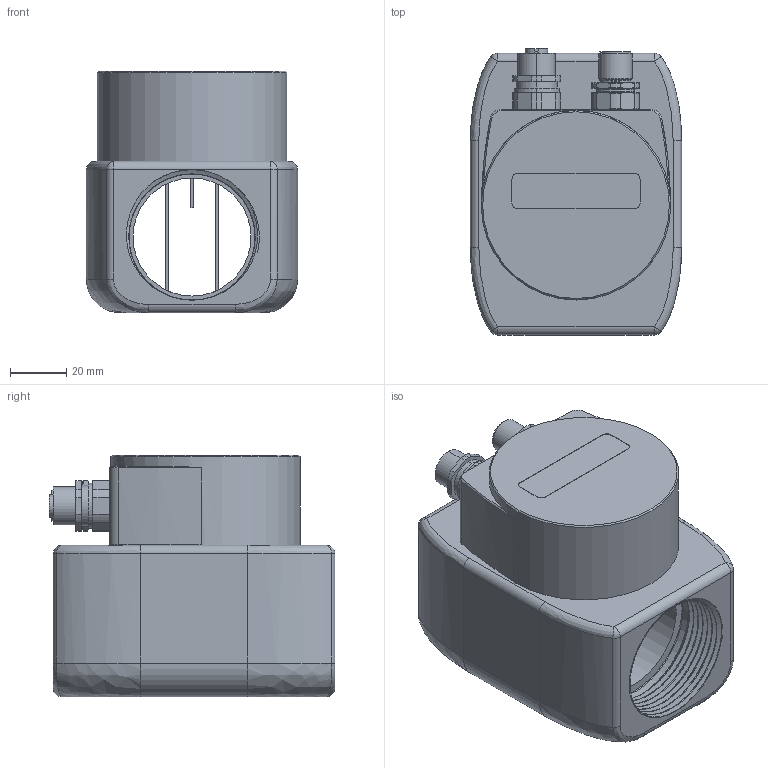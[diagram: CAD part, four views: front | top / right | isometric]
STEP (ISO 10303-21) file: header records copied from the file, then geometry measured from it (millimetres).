
FILE_DESCRIPTION(/* description */ (''),/* implementation_level */ '2;1');
FILE_NAME(/* name */ '549600_02_1-BGR_Inline_neu_1.5Zoll.stp',/* time_stamp */ '2018-11-28T15:39:25+01:00',/* author */ (''),/* organization */ (''),/* preprocessor_version */ 'ST-DEVELOPER v16',/* originating_system */ 'SIEMENS PLM Software NX 11.0',/* authorisation */ '');
FILE_SCHEMA (('AP203_CONFIGURATION_CONTROLLED_3D_DESIGN_OF_MECHANICAL_PARTS_AND_ASSEMBLIES_MIM_LF { 1 0 10303 403 2 1 2}'));
Length unit declared in the file: millimetre
Products named in the file (1): kien30CCF608weqp
Bounding box: 75 x 101.5 x 85.8 mm (x, y, z)
Volume: 360352.2 mm3; surface area: 57400 mm2
Topology: 1 solids, 1 shells, 303 faces, 745 edges, 465 vertices
Faces by surface type: plane 105, cylinder 89, bspline 36, cone 36, revolution 23, extrusion 6, torus 4, sphere 4
Full cylindrical faces by diameter (mm): 1 x1, 41.9 x1, 48.3 x2, 67.3 x1
Entity records: 14034 total; most frequent: CARTESIAN_POINT 6964, DIRECTION 1482, ORIENTED_EDGE 1448, EDGE_CURVE 724, AXIS2_PLACEMENT_3D 581, VERTEX_POINT 461, EDGE_LOOP 347, CIRCLE 334
